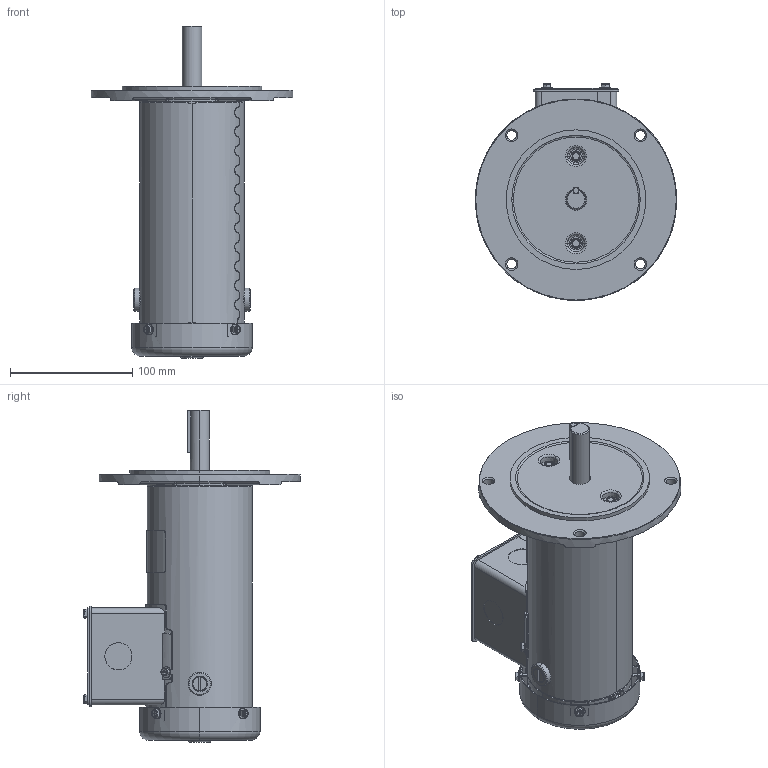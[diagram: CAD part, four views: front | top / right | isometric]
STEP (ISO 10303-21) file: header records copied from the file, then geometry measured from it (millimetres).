
FILE_DESCRIPTION (( 'STEP AP203' ), '1' );
FILE_NAME ('M1030132-M1130120_Rev10.STEP', '2017-08-09T12:01:48', ( 'admin' ), ( '' ), 'SwSTEP 2.0', 'SolidWorks 2015', '' );
FILE_SCHEMA (( 'CONFIG_CONTROL_DESIGN' ));
Length unit declared in the file: inch
Products named in the file (1): M1030132-M1130120_Rev10
Bounding box: 165.1 x 177.47 x 271.82 mm (x, y, z)
Volume: 486845 mm3; surface area: 299511.6 mm2
Topology: 32 solids, 32 shells, 2266 faces, 5669 edges, 3547 vertices
Faces by surface type: plane 803, cylinder 618, bspline 331, cone 243, torus 159, sphere 112
Entity records: 88014 total; most frequent: CARTESIAN_POINT 36002, ORIENTED_EDGE 11286, DIRECTION 10070, EDGE_CURVE 5643, AXIS2_PLACEMENT_3D 3860, VERTEX_POINT 3547, EDGE_LOOP 2516, LINE 2350
